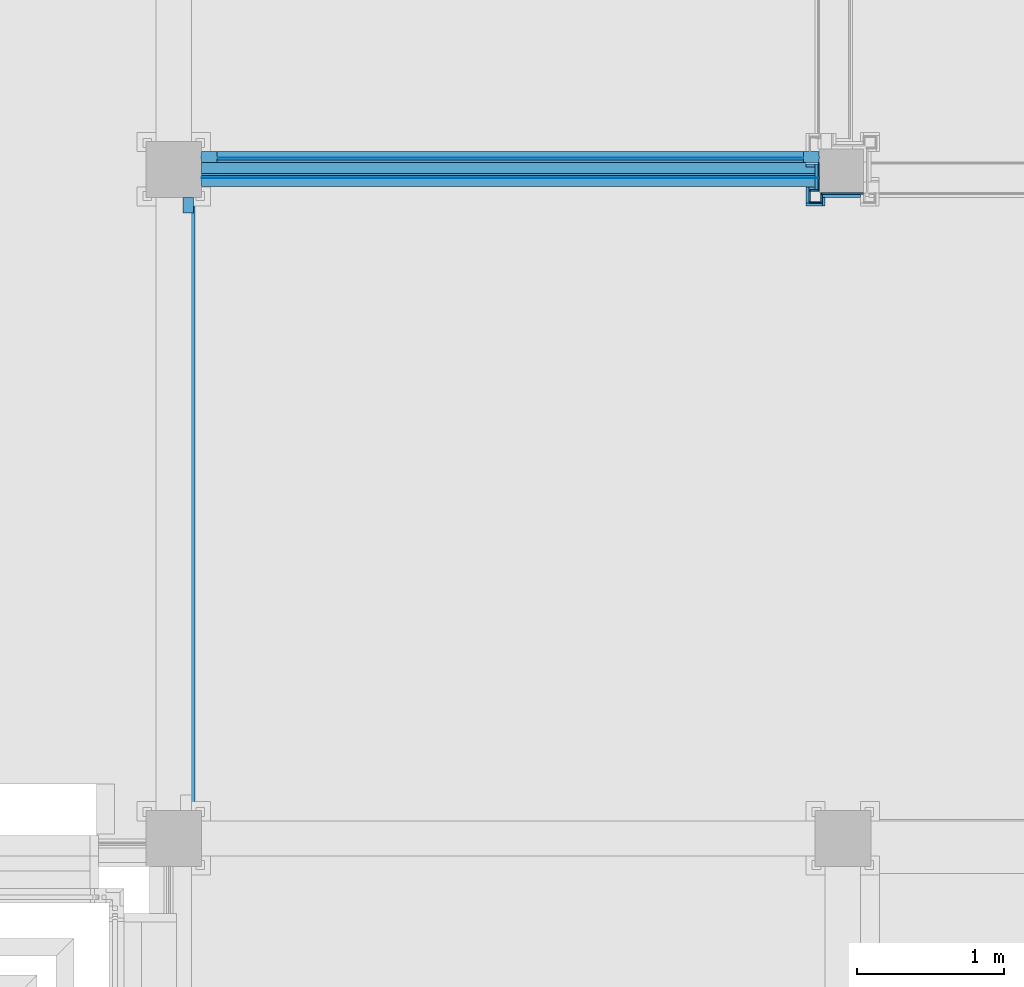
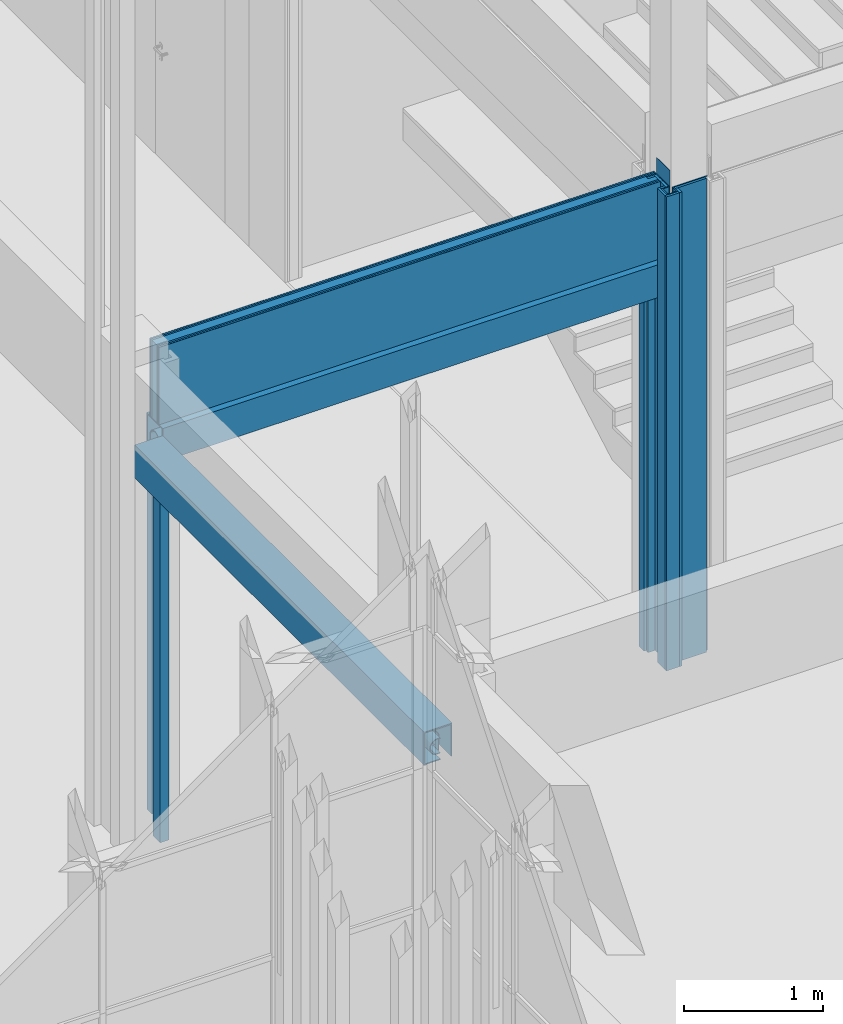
# One storey, part 143 of 260: 20 building element parts, 5 discrete accessories, 8 elements without a shape of their own.
"""IFC2X3 building model written with IfcOpenShell, lengths in millimetres."""

import ifcopenshell
import ifcopenshell.guid

model = None  # the IFC model being written
_history = None  # IfcOwnerHistory: only IFC2X3 demands one
_inside = {}  # id of a spatial element -> (the spatial element, [elements in it])
_under = {}  # id of a project, library or spatial element -> (it, [spatial elements below it])
_declared = {}  # id of a project -> (the project, [libraries it declares])
_typed = {}  # id of a type object -> (the type object, [elements of that type])
_made_of = {}  # id of a material, layer set ... -> (it, [elements and type objects made of it])


def new_model(schema):
    """Start an empty IFC model of exactly this schema.

    Asked for "IFC4X3", IfcOpenShell would pick the latest addendum, in which some entities
    have other attributes; the version numbers below select the first issue.
    IFC2X3 requires an IfcOwnerHistory on every rooted entity: one is made here for all.
    """
    global model, _history
    if schema == "IFC4X3":
        model = ifcopenshell.file(schema_version=(4, 3, 0, 0))
    else:
        model = ifcopenshell.file(schema=schema)
    _inside.clear()
    _under.clear()
    _declared.clear()
    _typed.clear()
    _made_of.clear()
    _history = None
    if model.schema == "IFC2X3":
        org = make("IfcOrganization", Name="unknown")
        user = make(
            "IfcPersonAndOrganization",
            ThePerson=make("IfcPerson", FamilyName="unknown"),
            TheOrganization=org,
        )
        app = make(
            "IfcApplication",
            ApplicationDeveloper=org,
            Version="unknown",
            ApplicationFullName="unknown",
            ApplicationIdentifier="unknown",
        )
        _history = make(
            "IfcOwnerHistory",
            OwningUser=user,
            OwningApplication=app,
            ChangeAction="ADDED",
            CreationDate=0,
        )
    return model


def make(cls, **values):
    """One entity of the class cls with the attributes given. An attribute that is None is left unset."""
    return model.create_entity(
        cls, **{name: value for name, value in values.items() if value is not None}
    )


def entity(cls, *values):
    """Any entity or typed value of the class cls, its attributes in the order of the schema. None: left unset."""
    e = model.create_entity(cls)
    for i, value in enumerate(values):
        if value is not None:
            e[i] = value
    return e


def rooted(cls, **values):
    """An entity with a GlobalId (a new one), such as an element, a storey or a relation."""
    return make(cls, GlobalId=ifcopenshell.guid.new(), OwnerHistory=_history, **values)


def si_unit(unit_type, name, prefix=None):
    """IfcSIUnit, for example si_unit("LENGTHUNIT", "METRE", prefix="MILLI")."""
    return make("IfcSIUnit", UnitType=unit_type, Prefix=prefix, Name=name)


def converted_unit(unit_type, name, factor, base, dimensions=None, offset=None):
    """IfcConversionBasedUnit, such as the inch: factor (a typed value) times the base unit."""
    return make(
        "IfcConversionBasedUnit"
        if offset is None
        else "IfcConversionBasedUnitWithOffset",
        ConversionOffset=offset,
        Dimensions=None
        if dimensions is None
        else entity("IfcDimensionalExponents", *dimensions),
        UnitType=unit_type,
        Name=name,
        ConversionFactor=make(
            "IfcMeasureWithUnit", ValueComponent=factor, UnitComponent=base
        ),
    )


def derived_unit(unit_type, elements):
    """IfcDerivedUnit: a product of units, each with its exponent."""
    return make(
        "IfcDerivedUnit",
        Elements=[
            make("IfcDerivedUnitElement", Unit=unit, Exponent=power)
            for unit, power in elements
        ],
        UnitType=unit_type,
    )


def money_unit(currency):
    """IfcMonetaryUnit."""
    return make("IfcMonetaryUnit", Currency=currency)


def assignment(units):
    """IfcUnitAssignment: the units of a project."""
    return None if units is None else make("IfcUnitAssignment", Units=units)


def point(xyz):
    """IfcCartesianPoint."""
    return None if xyz is None else make("IfcCartesianPoint", Coordinates=xyz)


def direction(xyz):
    """IfcDirection."""
    return None if xyz is None else make("IfcDirection", DirectionRatios=xyz)


def frame(location, z_axis=None, x_axis=None):
    """IfcAxis2Placement3D, a coordinate frame: its origin and axes. An axis left out is left unset."""
    return make(
        "IfcAxis2Placement3D",
        Location=point(location),
        Axis=direction(z_axis),
        RefDirection=direction(x_axis),
    )


def origin_with_axes():
    """The frame at (0, 0, 0) with the z axis (0, 0, 1) and the x axis (1, 0, 0) written out."""
    return frame((0.0, 0.0, 0.0), z_axis=(0.0, 0.0, 1.0), x_axis=(1.0, 0.0, 0.0))


def place(relative_to, where):
    """IfcLocalPlacement: puts the frame where relative to a parent placement (None: the world)."""
    return make(
        "IfcLocalPlacement", PlacementRelTo=relative_to, RelativePlacement=where
    )


def context(
    kind, dimensions, precision=None, world=None, true_north=None, identifier=None
):
    """IfcGeometricRepresentationContext, for example the 3D "Model" context."""
    return make(
        "IfcGeometricRepresentationContext",
        ContextIdentifier=identifier,
        ContextType=kind,
        CoordinateSpaceDimension=dimensions,
        Precision=precision,
        WorldCoordinateSystem=world,
        TrueNorth=true_north,
    )


def subcontext(parent, identifier, kind, view, scale=None):
    """IfcGeometricRepresentationSubContext, for example "Body" below "Model"."""
    return make(
        "IfcGeometricRepresentationSubContext",
        ContextIdentifier=identifier,
        ContextType=kind,
        ParentContext=parent,
        TargetScale=scale,
        TargetView=view,
    )


def project(units=None, contexts=None):
    """IfcProject with its units and contexts."""
    return rooted(
        "IfcProject",
        Name="project",
        RepresentationContexts=contexts,
        UnitsInContext=assignment(units),
    )


def spatial(cls, under=None, at=None, **own):
    """A site, building, storey or space (cls), placed at a placement, below another one or the project."""
    s = rooted(cls, ObjectPlacement=at, **own)
    if under is not None:
        _under.setdefault(under.id(), (under, []))[1].append(s)
    return s


def faces_of(points, faces, orient=None, outer=None):
    """IfcFace entities. A face is a list of loops; a loop is a list of indices into points, from 0.

    orient and outer hold one flag for each loop. By default every Orientation is true, the
    first loop of a face is its IfcFaceOuterBound and the others are IfcFaceBound.
    """
    made = []
    for i, loops in enumerate(faces):
        bounds = []
        for j, loop in enumerate(loops):
            is_outer = j == 0 if outer is None else outer[i][j]
            bounds.append(
                make(
                    "IfcFaceOuterBound" if is_outer else "IfcFaceBound",
                    Bound=make("IfcPolyLoop", Polygon=[points[k] for k in loop]),
                    Orientation=True if orient is None else orient[i][j],
                )
            )
        made.append(make("IfcFace", Bounds=bounds))
    return made


def faceted_brep(points, faces, orient=None, outer=None, voids=None):
    """IfcFacetedBrep: a solid bounded by flat faces; with voids (closed shells), ...WithVoids."""
    shared = [point(p) for p in points]
    hull = make("IfcClosedShell", CfsFaces=faces_of(shared, faces, orient, outer))
    if voids is None:
        return make("IfcFacetedBrep", Outer=hull)
    return make(
        "IfcFacetedBrepWithVoids",
        Outer=hull,
        Voids=[
            make(cls, CfsFaces=faces_of(shared, fs, o, b)) for cls, fs, o, b in voids
        ],
    )


def shape(context_of_items, identifier, shape_type, items):
    """IfcShapeRepresentation: the items that make up one representation, for example the "Body"."""
    return make(
        "IfcShapeRepresentation",
        ContextOfItems=context_of_items,
        RepresentationIdentifier=identifier,
        RepresentationType=shape_type,
        Items=items,
    )


def material(Name=None, Category=None):
    """IfcMaterial."""
    return make("IfcMaterial", Name=Name, Category=Category)


def material_list(materials):
    """IfcMaterialList."""
    return make("IfcMaterialList", Materials=materials)


def made_of(thing, what):
    """Note that an element or type object is made of a material, layer set ...; save() writes the relation."""
    if what is not None:
        _made_of.setdefault(what.id(), (what, []))[1].append(thing)
    return thing


def type_object(cls, material=None, **own):
    """A type object (cls), such as IfcWallType, which elements share."""
    return made_of(rooted(cls, **own), material)


def element(
    cls,
    number,
    at=None,
    inside=None,
    cuts=None,
    type_object=None,
    material=None,
    context=None,
    identifier="Body",
    shape_type=None,
    held_by="IfcProductDefinitionShape",
    body=None,
    shapes=None,
    **own,
):
    """One element of the class cls, such as IfcWall. Its Tag is "e" and its number.

    at: its placement. inside: the storey or other place that contains it. cuts: it is an
    opening in that element (IfcRelVoidsElement). A single representation is given by context,
    identifier, shape_type and body (its items); several are given by shapes. held_by: the class
    of the entity that holds the representations. save() writes the other relations.
    """
    e = rooted(cls, Tag="e%d" % number, ObjectPlacement=at, **own)
    if body is not None:
        shapes = [shape(context, identifier, shape_type, body)]
    if shapes is not None:
        e.Representation = make(held_by, Representations=shapes)
    if inside is not None:
        _inside.setdefault(inside.id(), (inside, []))[1].append(e)
    if cuts is not None:
        rooted(
            "IfcRelVoidsElement", RelatingBuildingElement=cuts, RelatedOpeningElement=e
        )
    if type_object is not None:
        _typed.setdefault(type_object.id(), (type_object, []))[1].append(e)
    return made_of(e, material)


def aggregate(whole, parts):
    """IfcRelAggregates: a whole, such as a stair, and the parts it consists of."""
    return rooted("IfcRelAggregates", RelatingObject=whole, RelatedObjects=parts)


def save(model, path):
    """Write the relations noted so far, then the file.

    IfcRelAggregates (storeys below a building ...), IfcRelContainedInSpatialStructure (elements
    in a storey), IfcRelDefinesByType, IfcRelAssociatesMaterial and IfcRelDeclares: one each for
    every whole, place, type object, material and project.
    """
    for whole, parts in _under.values():
        aggregate(whole, parts)
    for where, things in _inside.values():
        rooted(
            "IfcRelContainedInSpatialStructure",
            RelatedElements=things,
            RelatingStructure=where,
        )
    for kind, things in _typed.values():
        rooted("IfcRelDefinesByType", RelatedObjects=things, RelatingType=kind)
    for what, things in _made_of.values():
        rooted("IfcRelAssociatesMaterial", RelatedObjects=things, RelatingMaterial=what)
    for by, libraries in _declared.values():
        rooted("IfcRelDeclares", RelatingContext=by, RelatedDefinitions=libraries)
    model.write(path)


model = new_model("IFC2X3")

# Units and contexts
model_context = context("Model", 3, precision=0.01, world=origin_with_axes(), true_north=direction((0.0, 1.0)))
body_context = subcontext(model_context, "Body", "Model", "MODEL_VIEW")
ifc_project = project(units=[si_unit("LENGTHUNIT", "METRE", prefix="MILLI"), si_unit("AREAUNIT", "SQUARE_METRE"), si_unit("VOLUMEUNIT", "CUBIC_METRE"), converted_unit("PLANEANGLEUNIT", "DEGREE", entity("IfcPlaneAngleMeasure", 0.0174532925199), si_unit("PLANEANGLEUNIT", "RADIAN"), dimensions=[0, 0, 0, 0, 0, 0, 0]), money_unit("EUR"), converted_unit("TIMEUNIT", "Year", entity("IfcTimeMeasure", 31556926.0), si_unit("TIMEUNIT", "SECOND"), dimensions=[0, 0, 1, 0, 0, 0, 0]), si_unit("MASSUNIT", "GRAM", prefix="KILO"), si_unit("THERMODYNAMICTEMPERATUREUNIT", "DEGREE_CELSIUS"), si_unit("LUMINOUSINTENSITYUNIT", "LUMEN"), si_unit("ENERGYUNIT", "JOULE", prefix="MEGA"), derived_unit("THERMALCONDUCTANCEUNIT", [(si_unit("POWERUNIT", "WATT"), 1), (si_unit("LENGTHUNIT", "METRE"), -1), (si_unit("THERMODYNAMICTEMPERATUREUNIT", "KELVIN"), -1)]), derived_unit("SPECIFICHEATCAPACITYUNIT", [(si_unit("ENERGYUNIT", "JOULE"), 1), (si_unit("MASSUNIT", "GRAM", prefix="KILO"), -1), (si_unit("THERMODYNAMICTEMPERATUREUNIT", "KELVIN"), -1)]), derived_unit("MASSDENSITYUNIT", [(si_unit("MASSUNIT", "GRAM", prefix="KILO"), 1), (si_unit("VOLUMEUNIT", "CUBIC_METRE"), -1)])], contexts=[model_context])

# Site, building, storey
site_placement = place(None, origin_with_axes())
site = spatial("IfcSite", under=ifc_project, at=site_placement, Name="Kolde pst 67a", CompositionType="ELEMENT")
building_placement = place(site_placement, origin_with_axes())
building = spatial("IfcBuilding", under=site, at=building_placement, Name="Riigigümnaasium", CompositionType="ELEMENT")
storey_placement = place(building_placement, origin_with_axes())
storey = spatial("IfcBuildingStorey", under=building, at=storey_placement, Name="1. korrus", CompositionType="ELEMENT", Elevation=0.0)

# Discrete accessories
ifc_material_1 = material(Name="_ÕHK")
ifc_material_2 = material(Name="_METALL - teras")
ifc_material_list = material_list([ifc_material_1, ifc_material_2])
discrete_accessory_type_1 = type_object("IfcDiscreteAccessoryType", Name="Fibreshield-p H kuni 6 m  235 x 290")
discrete_accessory_1_placement = place(storey_placement, frame((52618.9990217, 28689.9997005, 3200.0), z_axis=(0.0, 0.0, 1.0), x_axis=(0.0, 1.0, 0.0)))
element("IfcDiscreteAccessory", 1, at=discrete_accessory_1_placement, inside=storey, type_object=discrete_accessory_type_1, material=ifc_material_list, Name="Tuletõkkekardin", context=body_context, shape_type="Brep", body=[
    faceted_brep([(136.000001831, 89.0049028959, 173.728673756), (136.000001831, 89.0049028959, 180.569471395), (130.610610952, 89.0049028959, 185.383225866), (111.10866745, 89.0049028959, 194.148356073), (105.999999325, 89.0049028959, 194.742343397), (105.999999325, 89.0049028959, 189.874203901), (124.999999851, 89.0049028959, 182.958769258), (136.000001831, 105.0, 180.569469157), (136.000001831, 105.0, 173.728671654), (146.556964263, 105.0, 171.140082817), (146.556964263, 4200.0, 171.140082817), (130.610610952, 4200.0, 185.383225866), (111.10866745, 4200.0, 194.148356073), (89.8705986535, 4200.0, 196.617716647), (89.8705986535, 29.0048994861, 196.617716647), (105.999999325, 29.0048994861, 194.742343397), (105.999999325, 29.0048994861, 189.874203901), (103.787131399, 29.0048994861, 190.679621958), (103.787131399, 4200.0, 190.679621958), (124.999999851, 4200.0, 182.958769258), (142.292888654, 4200.0, 168.448312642), (142.292888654, 105.0, 168.448312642), (162.499999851, 105.0, 0.555395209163), (162.499999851, 105.0, 126.667118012), (161.228447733, 105.0, 139.948701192), (157.459986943, 105.0, 152.747763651), (153.580020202, 105.0, 148.898427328), (157.499999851, 105.0, 126.667118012), (157.499999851, 105.0, 0.555395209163), (157.459986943, 4200.0, 152.747763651), (31.572193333, 4200.0, 92.2026088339), (24.8060324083, 4200.0, 108.84783711), (22.499999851, 4200.0, 126.667118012), (25.7653806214, 4200.0, 147.797442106), (35.2568740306, 4200.0, 166.956378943), (50.0889560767, 4200.0, 182.356464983), (68.8778440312, 4200.0, 192.560924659), (161.228447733, 4200.0, 139.948701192), (162.499999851, 4200.0, 126.667118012), (162.499999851, 4200.0, 0.555395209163), (157.499999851, 4200.0, 0.555395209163), (157.499999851, 4200.0, 126.667118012), (153.580020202, 4200.0, 148.898427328), (81.2128683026, 4200.0, 190.679621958), (59.999999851, 4200.0, 182.958769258), (42.7071110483, 4200.0, 168.448312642), (31.4199794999, 4200.0, 148.898427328), (27.499999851, 4200.0, 126.667118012), (30.6090574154, 4200.0, 106.804810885), (39.6388073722, 4200.0, 88.8425977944), (53.7254339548, 4200.0, 74.4988034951), (71.5213638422, 4200.0, 65.1456028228), (97.8520772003, 4200.0, 63.4245440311), (123.519091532, 4200.0, 69.546054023), (125.382804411, 4200.0, 64.871315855), (107.591032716, 4200.0, 59.5917922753), (89.1009241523, 4200.0, 57.9991860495), (70.6684146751, 4200.0, 60.1586081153), (56.4372110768, 4200.0, 66.6714909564), (42.3526829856, 4200.0, 77.8281314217), (68.8778440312, 29.0048994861, 192.560924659), (50.0889560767, 29.0048994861, 182.356464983), (35.2568740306, 29.0048994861, 166.956378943), (25.7653806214, 29.0048994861, 147.797442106), (22.499999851, 29.0048994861, 126.667118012), (24.8060324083, 29.0048994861, 108.84783711), (31.572193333, 29.0048994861, 92.2026088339), (42.3526829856, 29.0048994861, 77.8281314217), (56.4372110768, 29.0048994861, 66.6714909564), (70.6684146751, 29.0048994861, 60.1586081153), (89.1009241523, 29.0048994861, 57.9991860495), (105.999999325, 29.0048994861, 59.4547519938), (105.999999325, 29.0048994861, 65.3678003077), (97.8520772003, 29.0048994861, 63.4245440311), (71.5213638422, 29.0048994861, 65.1456028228), (53.7254339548, 29.0048994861, 74.4988034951), (39.6388073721, 29.0048994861, 88.8425977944), (30.6090574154, 29.0048994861, 106.804810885), (27.499999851, 29.0048994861, 126.667118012), (31.4199794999, 29.0048994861, 148.898427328), (42.7071110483, 29.0048994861, 168.448312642), (59.999999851, 29.0048994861, 182.958769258), (81.2128683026, 29.0048994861, 190.679621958), (105.999999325, 89.0049028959, 65.3678003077), (123.519091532, 89.0049028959, 69.546054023), (125.382804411, 89.0049028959, 64.871315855), (107.591032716, 89.0049028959, 59.5917922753), (105.999999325, 89.0049028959, 59.4547519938)], [[[0, 1, 2, 3, 4, 5, 6]], [[7, 1, 0, 8]], [[7, 9, 10, 11, 2, 1]], [[3, 2, 11, 12]], [[13, 14, 15, 4, 3, 12]], [[4, 15, 16, 5]], [[5, 16, 17, 18, 19, 6]], [[8, 0, 6, 19, 20, 21]], [[22, 23, 24, 25, 9, 7, 8, 21, 26, 27, 28]], [[9, 25, 29, 10]], [[30, 31, 32, 33, 34, 35, 36, 13, 12, 11, 10, 29, 37, 38, 39, 40, 41, 42, 20, 19, 18, 43, 44, 45, 46, 47, 48, 49, 50, 51, 52, 53, 54, 55, 56, 57, 58, 59]], [[36, 60, 14, 13]], [[17, 16, 15, 14, 60, 61, 62, 63, 64, 65, 66, 67, 68, 69, 70, 71, 72, 73, 74, 75, 76, 77, 78, 79, 80, 81, 82]], [[18, 17, 82, 43]], [[26, 21, 20, 42]], [[23, 22, 39, 38]], [[24, 23, 38, 37]], [[25, 24, 37, 29]], [[27, 26, 42, 41]], [[28, 27, 41, 40]], [[22, 28, 40, 39]], [[30, 66, 65, 31]], [[31, 65, 64, 32]], [[32, 64, 63, 33]], [[33, 63, 62, 34]], [[34, 62, 61, 35]], [[35, 61, 60, 36]], [[43, 82, 81, 44]], [[44, 81, 80, 45]], [[45, 80, 79, 46]], [[46, 79, 78, 47]], [[47, 78, 77, 48]], [[48, 77, 76, 49]], [[49, 76, 75, 50]], [[50, 75, 74, 51]], [[51, 74, 73, 52]], [[52, 73, 72, 83, 84, 53]], [[53, 84, 85, 54]], [[54, 85, 86, 55]], [[87, 71, 70, 56, 55, 86]], [[56, 70, 69, 57]], [[57, 69, 68, 58]], [[58, 68, 67, 59]], [[59, 67, 66, 30]], [[83, 72, 71, 87]], [[87, 86, 85, 84, 83]]]),
    faceted_brep([(199.999998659, 0.0, 270.0), (210.000001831, 0.0, 270.0), (210.000000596, 0.0, 290.0), (-25.0, 0.0, 290.0), (-25.0, 0.0, 0.0), (122.368444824, 0.0, 0.0), (122.368444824, 0.0, 10.0000019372), (-14.9999980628, 0.0, 10.0000019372), (-14.9999980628, 0.0, 279.999998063), (199.999998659, 0.0, 279.999998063), (210.000001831, 105.0, 270.0), (199.999998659, 105.0, 270.0), (210.000001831, 105.0, 0.0), (210.000000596, 4200.0, 0.0), (210.000000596, 4200.0, 290.0), (-25.0, 4200.0, 290.0), (-25.0, 4200.0, 0.0), (122.368444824, 4200.0, 0.0), (122.368444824, 4200.0, 10.0000019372), (-14.9999980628, 4200.0, 10.0000019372), (-14.9999980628, 4200.0, 279.999998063), (199.999998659, 4200.0, 279.999998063), (199.999998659, 4200.0, 0.0), (199.999998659, 105.0, 0.0)], [[[0, 1, 2, 3, 4, 5, 6, 7, 8, 9]], [[10, 1, 0, 11]], [[10, 12, 13, 14, 2, 1]], [[2, 14, 15, 3]], [[3, 15, 16, 4]], [[4, 16, 17, 5]], [[5, 17, 18, 6]], [[6, 18, 19, 7]], [[7, 19, 20, 8]], [[8, 20, 21, 9]], [[11, 0, 9, 21, 22, 23]], [[12, 10, 11, 23]], [[12, 23, 22, 13]], [[17, 16, 15, 14, 13, 22, 21, 20, 19, 18]]]),
])
discrete_accessory_2_placement = place(storey_placement, frame((48164.9854616, 24419.9999736, 3200.0), z_axis=(0.0, 0.0, 1.0), x_axis=(1.0, 0.0, 0.0)))
element("IfcDiscreteAccessory", 2, at=discrete_accessory_2_placement, inside=storey, type_object=discrete_accessory_type_1, material=ifc_material_list, Name="Tuletõkkekardin", context=body_context, shape_type="Brep", body=[
    faceted_brep([(123.519091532, 104.996560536, 69.546054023), (125.382804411, 104.996560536, 64.871315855), (125.382804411, 4170.00462566, 64.871315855), (123.519091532, 4170.00462566, 69.546054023), (110.999999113, 104.996560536, 60.6033676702), (110.999999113, 104.996560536, 66.5602860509), (110.999999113, -0.00343946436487, 60.6033676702), (107.591032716, 0.0, 59.5917922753), (107.591032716, 4170.00462566, 59.5917922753), (24.8060324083, 4170.00462566, 108.84783711), (22.499999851, 4170.00462566, 126.667118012), (25.7653806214, 4170.00462566, 147.797442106), (35.2568740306, 4170.00462566, 166.956378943), (50.0889560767, 4170.00462566, 182.356464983), (68.8778440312, 4170.00462566, 192.560924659), (89.8705986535, 4170.00462566, 196.617716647), (111.10866745, 4170.00462566, 194.148356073), (130.610610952, 4170.00462566, 185.383225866), (146.556964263, 4170.00462566, 171.140082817), (157.459986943, 4170.00462566, 152.747763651), (161.228447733, 4170.00462566, 139.948701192), (162.499999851, 4170.00462566, 126.667118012), (162.499999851, 4170.00462566, 0.555395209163), (157.499999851, 4170.00462566, 0.555395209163), (157.499999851, 4170.00462566, 126.667118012), (153.580020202, 4170.00462566, 148.898427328), (142.292888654, 4170.00462566, 168.448312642), (124.999999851, 4170.00462566, 182.958769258), (103.787131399, 4170.00462566, 190.679621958), (81.2128683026, 4170.00462566, 190.679621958), (59.999999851, 4170.00462566, 182.958769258), (42.7071110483, 4170.00462566, 168.448312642), (31.4199794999, 4170.00462566, 148.898427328), (27.499999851, 4170.00462566, 126.667118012), (30.6090574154, 4170.00462566, 106.804810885), (39.6388073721, 4170.00462566, 88.8425977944), (53.7254339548, 4170.00462566, 74.4988034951), (71.5213638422, 4170.00462566, 65.1456028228), (97.8520772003, 4170.00462566, 63.4245440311), (89.1009241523, 4170.00462566, 57.9991860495), (70.6684146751, 4170.00462566, 60.1586081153), (56.4372110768, 4170.00462566, 66.6714909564), (42.3526829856, 4170.00462566, 77.8281314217), (31.572193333, 4170.00462566, 92.2026088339), (97.8520772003, 0.0, 63.4245440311), (110.999999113, -0.00343946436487, 66.5602860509), (110.999999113, -0.00343946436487, 188.054352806), (110.999999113, -0.00343946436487, 194.160990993), (89.8705986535, 0.0, 196.617716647), (68.8778440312, 0.0, 192.560924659), (50.0889560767, 0.0, 182.356464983), (35.2568740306, 0.0, 166.956378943), (25.7653806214, 0.0, 147.797442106), (22.499999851, 0.0, 126.667118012), (24.8060324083, 0.0, 108.84783711), (31.572193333, 0.0, 92.2026088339), (42.3526829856, 0.0, 77.8281314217), (56.4372110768, 0.0, 66.6714909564), (70.6684146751, 0.0, 60.1586081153), (89.1009241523, 0.0, 57.9991860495), (71.5213638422, 0.0, 65.1456028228), (53.7254339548, 0.0, 74.4988034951), (39.6388073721, 0.0, 88.8425977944), (30.6090574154, 0.0, 106.804810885), (27.499999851, 0.0, 126.667118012), (31.4199794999, 0.0, 148.898427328), (42.7071110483, 0.0, 168.448312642), (59.999999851, 0.0, 182.958769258), (81.2128683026, 0.0, 190.679621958), (103.787131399, 0.0, 190.679621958), (110.999999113, 104.996560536, 194.160990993), (111.10866745, 104.996560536, 194.148356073), (130.610610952, 104.996560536, 185.383225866), (146.556964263, 104.996560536, 171.140082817), (157.459986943, 104.996560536, 152.747763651), (161.228447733, 104.996560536, 139.948701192), (162.499999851, 104.996560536, 126.667118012), (162.499999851, 104.996560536, 0.555395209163), (157.499999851, 104.996560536, 0.555395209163), (157.499999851, 104.996560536, 126.667118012), (153.580020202, 104.996560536, 148.898427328), (142.292888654, 104.996560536, 168.448312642), (124.999999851, 104.996560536, 182.958769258), (110.999999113, 104.996560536, 188.054352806)], [[[0, 1, 2, 3]], [[4, 1, 0, 5]], [[4, 6, 7, 8, 2, 1]], [[9, 10, 11, 12, 13, 14, 15, 16, 17, 18, 19, 20, 21, 22, 23, 24, 25, 26, 27, 28, 29, 30, 31, 32, 33, 34, 35, 36, 37, 38, 3, 2, 8, 39, 40, 41, 42, 43]], [[5, 0, 3, 38, 44, 45]], [[5, 45, 6, 4]], [[46, 47, 48, 49, 50, 51, 52, 53, 54, 55, 56, 57, 58, 59, 7, 6, 45, 44, 60, 61, 62, 63, 64, 65, 66, 67, 68, 69]], [[59, 39, 8, 7]], [[53, 10, 9, 54]], [[52, 11, 10, 53]], [[51, 12, 11, 52]], [[50, 13, 12, 51]], [[49, 14, 13, 50]], [[48, 15, 14, 49]], [[70, 71, 16, 15, 48, 47]], [[71, 72, 17, 16]], [[72, 73, 18, 17]], [[73, 74, 19, 18]], [[74, 75, 20, 19]], [[75, 76, 21, 20]], [[76, 77, 22, 21]], [[77, 78, 23, 22]], [[78, 79, 24, 23]], [[79, 80, 25, 24]], [[80, 81, 26, 25]], [[81, 82, 27, 26]], [[83, 46, 69, 28, 27, 82]], [[68, 29, 28, 69]], [[67, 30, 29, 68]], [[66, 31, 30, 67]], [[65, 32, 31, 66]], [[64, 33, 32, 65]], [[63, 34, 33, 64]], [[62, 35, 34, 63]], [[61, 36, 35, 62]], [[60, 37, 36, 61]], [[44, 38, 37, 60]], [[58, 40, 39, 59]], [[57, 41, 40, 58]], [[56, 42, 41, 57]], [[55, 43, 42, 56]], [[54, 9, 43, 55]], [[70, 47, 46, 83]], [[77, 76, 75, 74, 73, 72, 71, 70, 83, 82, 81, 80, 79, 78]]]),
    faceted_brep([(110.999999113, -0.00343946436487, 10.0000019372), (110.999999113, 104.996560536, 10.0000019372), (122.368444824, 104.996560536, 10.0000019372), (122.368444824, 4170.00462566, 10.0000019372), (-14.9999980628, 4170.00462566, 10.0000019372), (-14.9999980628, 0.0, 10.0000019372), (110.999999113, -0.00343946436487, 0.0), (110.999999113, 104.996560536, 0.0), (122.368444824, 104.996560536, 0.0), (122.368444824, 4170.00462566, 0.0), (-25.0, 4170.00462566, 0.0), (-25.0, 4170.00462566, 290.0), (210.000000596, 4170.00462566, 290.0), (210.000000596, 4170.00462566, 0.0), (199.999998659, 4170.00462566, 0.0), (199.999998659, 4170.00462566, 279.999998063), (-14.9999980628, 4170.00462566, 279.999998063), (-14.9999980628, 0.0, 279.999998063), (199.999998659, 0.0, 279.999998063), (199.999998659, 0.0, 0.0), (210.000000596, 0.0, 0.0), (210.000000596, 0.0, 290.0), (-25.0, 0.0, 290.0), (-25.0, 0.0, 0.0)], [[[0, 1, 2, 3, 4, 5]], [[1, 0, 6, 7]], [[8, 2, 1, 7]], [[2, 8, 9, 3]], [[9, 10, 11, 12, 13, 14, 15, 16, 4, 3]], [[5, 4, 16, 17]], [[6, 0, 5, 17, 18, 19, 20, 21, 22, 23]], [[7, 6, 23, 10, 9, 8]], [[22, 11, 10, 23]], [[21, 12, 11, 22]], [[20, 13, 12, 21]], [[19, 14, 13, 20]], [[18, 15, 14, 19]], [[17, 16, 15, 18]]]),
])
discrete_accessory_type_2 = type_object("IfcDiscreteAccessoryType", Name="_METALL - teras 74 x 105")
discrete_accessory_3_placement = place(storey_placement, frame((52566.4990217, 28862.9997023, 0.0), z_axis=(0.0, 0.0, 1.0), x_axis=(0.0, -1.0, 0.0)))
element("IfcDiscreteAccessory", 3, at=discrete_accessory_3_placement, inside=storey, type_object=discrete_accessory_type_2, material=ifc_material_2, Name="Tuletõkke kardin", context=body_context, shape_type="Brep", body=[
    faceted_brep([(37.0, 52.5, 3470.0), (37.0, 52.5, 0.0), (-37.0, 52.5, 0.0), (-37.0, 52.5, 3470.0), (37.0, -52.5, 3470.0), (37.0, -52.5, 0.0), (-37.0, -52.5, 0.0), (-37.0, -52.5, 3470.0)], [[[0, 1, 2, 3]], [[4, 5, 1, 0]], [[2, 1, 5, 6]], [[3, 2, 6, 7]], [[4, 0, 3, 7]], [[7, 6, 5, 4]]]),
])
discrete_accessory_4_placement = place(storey_placement, frame((48472.4854607, 28862.9997023, 0.0), z_axis=(0.0, 0.0, 1.0), x_axis=(0.0, -1.0, 0.0)))
element("IfcDiscreteAccessory", 4, at=discrete_accessory_4_placement, inside=storey, type_object=discrete_accessory_type_2, material=ifc_material_2, Name="Tuletõkke kardin", context=body_context, shape_type="Brep", body=[
    faceted_brep([(37.0, 52.5, 3200.00001073), (37.0, 52.5, 0.0), (-37.0, 52.5, 0.0), (-37.0, 52.5, 3200.00001073), (37.0, -52.5, 3200.00001073), (37.0, -52.5, 0.0), (-37.0, -52.5, 0.0), (-37.0, -52.5, 3200.00001073)], [[[0, 1, 2, 3]], [[4, 5, 1, 0]], [[2, 1, 5, 6]], [[3, 2, 6, 7]], [[4, 0, 3, 7]], [[7, 6, 5, 4]]]),
])
discrete_accessory_5_placement = place(storey_placement, frame((48327.9854602, 28537.4996998, 0.0), z_axis=(0.0, 0.0, 1.0), x_axis=(-1.0, 0.0, 0.0)))
element("IfcDiscreteAccessory", 5, at=discrete_accessory_5_placement, inside=storey, type_object=discrete_accessory_type_2, material=ifc_material_2, Name="Tuletõkke kardin", context=body_context, shape_type="Brep", body=[
    faceted_brep([(37.0, 52.5, 3200.0), (37.0, 52.5, 0.0), (-37.0, 52.5, 0.0), (-37.0, 52.5, 3200.0), (37.0, -52.5, 3200.0), (37.0, -52.5, 0.0), (-37.0, -52.5, 0.0), (-37.0, -52.5, 3200.0)], [[[0, 1, 2, 3]], [[4, 5, 1, 0]], [[2, 1, 5, 6]], [[3, 2, 6, 7]], [[4, 0, 3, 7]], [[7, 6, 5, 4]]]),
])

# Wall, building element parts
wall_type_1 = type_object("IfcWallType", Name="SS-MK-1/1_1x dold pinnakiht 30", PredefinedType="NOTDEFINED")
wall_1_placement = place(storey_placement, frame((52619.9941222, 28629.9996569, 0.0), z_axis=(0.0, 0.0, 1.0), x_axis=(0.0, 1.0, 0.0)))
wall_1 = element("IfcWall", 6, at=wall_1_placement, inside=storey, type_object=wall_type_1, Name="Sisesein")
ifc_material_3 = material(Name="_VIIMISTLUSKIHT - Dold plaat vastavalt SA osale")
building_element_part_1_placement = place(wall_1_placement, origin_with_axes())
building_element_part_1 = element("IfcBuildingElementPart", 7, at=building_element_part_1_placement, material=ifc_material_3, Name="_VIIMISTLUSKIHT - Dold plaat vastavalt SA osale", context=body_context, shape_type="Brep", body=[
    faceted_brep([(35.0000435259, 10.0, 3200.0), (35.0000435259, 10.0, 3490.0), (186.000042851, 10.0, 3490.0), (186.000042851, 10.0, 4170.0), (10.0, 10.0, 4170.0), (10.0, 10.0, 0.0), (186.000042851, 10.0, 0.0), (186.000042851, 10.0, 3479.99999806), (45.0000454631, 10.0, 3479.99999806), (45.0000454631, 10.0, 3210.00000194), (182.36848835, 10.0, 3210.00000194), (182.36848835, 10.0, 3200.0), (35.0000435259, 30.0, 3200.0), (35.0000435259, 30.0, 3490.0), (186.000042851, 30.0, 3490.0), (186.000042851, 30.0, 4170.0), (10.0, 30.0, 4170.0), (10.0, 30.0, 0.0), (186.000042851, 30.0, 0.0), (186.000042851, 30.0, 3479.99999806), (45.0000454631, 30.0, 3479.99999806), (45.0000454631, 30.0, 3210.00000194), (182.36848835, 30.0, 3210.00000194), (182.36848835, 30.0, 3200.0)], [[[0, 1, 2, 3, 4, 5, 6, 7, 8, 9, 10, 11]], [[1, 0, 12, 13]], [[14, 2, 1, 13]], [[2, 14, 15, 3]], [[16, 4, 3, 15]], [[5, 4, 16, 17]], [[17, 18, 6, 5]], [[19, 7, 6, 18]], [[8, 7, 19, 20]], [[9, 8, 20, 21]], [[10, 9, 21, 22]], [[11, 10, 22, 23]], [[0, 11, 23, 12]], [[20, 19, 18, 17, 16, 15, 14, 13, 12, 23, 22, 21]]]),
])
ifc_material_4 = material(Name="_KARKASS - eriprofiilkinnitus vastavalt sisemisele plaatviimistlusele")
building_element_part_2_placement = place(wall_1_placement, origin_with_axes())
building_element_part_2 = element("IfcBuildingElementPart", 8, at=building_element_part_2_placement, material=ifc_material_4, Name="_KARKASS - eriprofiilkinnitus vastavalt sisemisele plaatviimistlusele", context=body_context, shape_type="Brep", body=[
    faceted_brep([(196.000042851, 10.0, 0.0), (196.000042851, 10.0, 3479.99999806), (196.000042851, 0.995100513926, 3479.99999806), (196.000042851, 0.995100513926, 3490.0), (196.000042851, 10.0, 3490.0), (196.000042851, 10.0, 4170.0), (196.000042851, 0.999999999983, 4170.0), (196.000042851, 0.999999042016, 4310.0), (196.000042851, 0.0, 4310.0), (196.000042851, 0.0, 0.0), (45.0000454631, 10.0, 3210.00000194), (45.0000454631, 10.0, 3479.99999806), (0.0, 10.0, 0.0), (0.0, 10.0, 4170.0), (35.0000435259, 10.0, 3490.0), (35.0000435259, 10.0, 3200.0), (182.36848835, 10.0, 3200.0), (182.36848835, 10.0, 3210.00000194), (45.0000454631, 0.995100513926, 3479.99999806), (35.0000435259, 0.995100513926, 3490.0), (45.0000454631, 0.995100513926, 3210.00000194), (182.36848835, 0.995100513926, 3210.00000194), (182.36848835, 0.995100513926, 3200.0), (35.0000435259, 0.995100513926, 3200.0), (0.0, 0.999999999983, 4170.0), (0.0, 0.999999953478, 4310.0), (0.0, 0.0, 4310.0), (0.0, 0.0, 0.0)], [[[0, 1, 2, 3, 4, 5, 6, 7, 8, 9]], [[10, 11, 1, 0, 12, 13, 5, 4, 14, 15, 16, 17]], [[18, 2, 1, 11]], [[19, 3, 2, 18, 20, 21, 22, 23]], [[14, 4, 3, 19]], [[13, 24, 6, 5]], [[6, 24, 25, 7]], [[26, 8, 7, 25]], [[26, 27, 9, 8]], [[27, 12, 0, 9]], [[18, 11, 10, 20]], [[26, 25, 24, 13, 12, 27]], [[23, 15, 14, 19]], [[22, 16, 15, 23]], [[21, 17, 16, 22]], [[20, 10, 17, 21]]]),
])
aggregate(wall_1, [building_element_part_1, building_element_part_2])

wall_2_placement = place(storey_placement, frame((52559.9941188, 28629.9996569, 0.0), z_axis=(0.0, 0.0, 1.0), x_axis=(1.0, 0.0, 0.0)))
wall_2 = element("IfcWall", 9, at=wall_2_placement, inside=storey, type_object=wall_type_1, Name="Sisesein")
building_element_part_3_placement = place(wall_2_placement, origin_with_axes())
building_element_part_3 = element("IfcBuildingElementPart", 10, at=building_element_part_3_placement, material=ifc_material_3, Name="_VIIMISTLUSKIHT - Dold plaat vastavalt SA osale", context=body_context, shape_type="Brep", body=[
    faceted_brep([(-10.0, 30.0, 4170.0), (30.0000034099, 30.0, 4170.0), (30.0000034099, 30.0, 0.0), (-10.0, 30.0, 0.0), (30.0000034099, 10.0, 4170.0), (-10.0, 10.0, 4170.0), (30.0000034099, 10.0, 0.0), (-10.0, 10.0, 0.0)], [[[0, 1, 2, 3]], [[4, 1, 0, 5]], [[1, 4, 6, 2]], [[2, 6, 7, 3]], [[5, 0, 3, 7]], [[4, 5, 7, 6]]]),
])
building_element_part_4_placement = place(wall_2_placement, origin_with_axes())
building_element_part_4 = element("IfcBuildingElementPart", 11, at=building_element_part_4_placement, material=ifc_material_4, Name="_KARKASS - eriprofiilkinnitus vastavalt sisemisele plaatviimistlusele", context=body_context, shape_type="Brep", body=[
    faceted_brep([(0.0, 10.0, 4170.0), (50.0000034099, 10.0, 4170.0), (50.0000034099, 10.0, 0.0), (0.0, 10.0, 0.0), (50.0000034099, 0.0, 4170.0), (0.0, 0.0, 4170.0), (50.0000034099, 0.0, 0.0), (0.0, 0.0, 0.0)], [[[0, 1, 2, 3]], [[4, 1, 0, 5]], [[1, 4, 6, 2]], [[2, 6, 7, 3]], [[5, 0, 3, 7]], [[4, 5, 7, 6]]]),
])
aggregate(wall_2, [building_element_part_3, building_element_part_4])

wall_3_placement = place(storey_placement, frame((52559.9941188, 28559.999656, 0.0), z_axis=(0.0, 0.0, 1.0), x_axis=(0.0, 1.0, 0.0)))
wall_3 = element("IfcWall", 12, at=wall_3_placement, inside=storey, type_object=wall_type_1, Name="Sisesein")
building_element_part_5_placement = place(wall_3_placement, origin_with_axes())
building_element_part_5 = element("IfcBuildingElementPart", 13, at=building_element_part_5_placement, material=ifc_material_3, Name="_VIIMISTLUSKIHT - Dold plaat vastavalt SA osale", context=body_context, shape_type="Brep", body=[
    faceted_brep([(100.000000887, 30.0, 4170.0), (100.000000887, 10.0, 4170.0), (100.000000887, 10.0, 0.0), (100.000000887, 30.0, 0.0), (-10.0, 10.0, 4170.0), (-10.0, 30.0, 4170.0), (-10.0, 10.0, 0.0), (-10.0, 30.0, 0.0)], [[[0, 1, 2, 3]], [[4, 1, 0, 5]], [[1, 4, 6, 2]], [[3, 2, 6, 7]], [[5, 0, 3, 7]], [[4, 5, 7, 6]]]),
])
building_element_part_6_placement = place(wall_3_placement, origin_with_axes())
building_element_part_6 = element("IfcBuildingElementPart", 14, at=building_element_part_6_placement, material=ifc_material_4, Name="_KARKASS - eriprofiilkinnitus vastavalt sisemisele plaatviimistlusele", context=body_context, shape_type="Brep", body=[
    faceted_brep([(80.0000008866, 10.0, 4170.0), (80.0000008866, 0.0, 4170.0), (80.0000008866, 0.0, 0.0), (80.0000008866, 10.0, 0.0), (0.0, 0.0, 4170.0), (0.0, 10.0, 4170.0), (0.0, 0.0, 0.0), (0.0, 10.0, 0.0)], [[[0, 1, 2, 3]], [[4, 1, 0, 5]], [[1, 4, 6, 2]], [[3, 2, 6, 7]], [[5, 0, 3, 7]], [[4, 5, 7, 6]]]),
])
aggregate(wall_3, [building_element_part_5, building_element_part_6])

wall_4_placement = place(storey_placement, frame((52629.9941222, 28559.999656, 0.0), z_axis=(0.0, 0.0, 1.0), x_axis=(-1.0, 0.0, 0.0)))
wall_4 = element("IfcWall", 15, at=wall_4_placement, inside=storey, type_object=wall_type_1, Name="Sisesein")
building_element_part_7_placement = place(wall_4_placement, origin_with_axes())
building_element_part_7 = element("IfcBuildingElementPart", 16, at=building_element_part_7_placement, material=ifc_material_3, Name="_VIIMISTLUSKIHT - Dold plaat vastavalt SA osale", context=body_context, shape_type="Brep", body=[
    faceted_brep([(100.00000341, 10.0, 4170.0), (-10.0, 10.0, 4170.0), (-10.0, 10.0, 0.0), (100.00000341, 10.0, 0.0), (-10.0, 30.0, 4170.0), (100.00000341, 30.0, 4170.0), (-10.0, 30.0, 0.0), (100.00000341, 30.0, 0.0)], [[[0, 1, 2, 3]], [[4, 1, 0, 5]], [[1, 4, 6, 2]], [[7, 3, 2, 6]], [[5, 0, 3, 7]], [[4, 5, 7, 6]]]),
])
building_element_part_8_placement = place(wall_4_placement, origin_with_axes())
building_element_part_8 = element("IfcBuildingElementPart", 17, at=building_element_part_8_placement, material=ifc_material_4, Name="_KARKASS - eriprofiilkinnitus vastavalt sisemisele plaatviimistlusele", context=body_context, shape_type="Brep", body=[
    faceted_brep([(80.0000034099, 0.0, 4170.0), (0.0, 0.0, 4170.0), (0.0, 0.0, 0.0), (80.0000034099, 0.0, 0.0), (0.0, 10.0, 4170.0), (80.0000034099, 10.0, 4170.0), (0.0, 10.0, 0.0), (80.0000034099, 10.0, 0.0)], [[[0, 1, 2, 3]], [[4, 1, 0, 5]], [[1, 4, 6, 2]], [[7, 3, 2, 6]], [[5, 0, 3, 7]], [[4, 5, 7, 6]]]),
])
aggregate(wall_4, [building_element_part_7, building_element_part_8])

wall_5_placement = place(storey_placement, frame((52629.9941222, 28619.999656, 0.0), z_axis=(0.0, 0.0, 1.0), x_axis=(0.0, -1.0, 0.0)))
wall_5 = element("IfcWall", 18, at=wall_5_placement, inside=storey, type_object=wall_type_1, Name="Sisesein")
building_element_part_9_placement = place(wall_5_placement, origin_with_axes())
building_element_part_9 = element("IfcBuildingElementPart", 19, at=building_element_part_9_placement, material=ifc_material_3, Name="_VIIMISTLUSKIHT - Dold plaat vastavalt SA osale", context=body_context, shape_type="Brep", body=[
    faceted_brep([(30.0, 10.0, 4170.0), (30.0, 30.0, 4170.0), (30.0, 30.0, 0.0), (30.0, 10.0, 0.0), (90.0, 30.0, 4170.0), (90.0, 10.0, 4170.0), (90.0, 30.0, 0.0), (90.0, 10.0, 0.0)], [[[0, 1, 2, 3]], [[4, 1, 0, 5]], [[1, 4, 6, 2]], [[6, 7, 3, 2]], [[5, 0, 3, 7]], [[4, 5, 7, 6]]]),
])
building_element_part_10_placement = place(wall_5_placement, origin_with_axes())
building_element_part_10 = element("IfcBuildingElementPart", 20, at=building_element_part_10_placement, material=ifc_material_4, Name="_KARKASS - eriprofiilkinnitus vastavalt sisemisele plaatviimistlusele", context=body_context, shape_type="Brep", body=[
    faceted_brep([(10.0, 0.0, 4170.0), (10.0, 10.0, 4170.0), (10.0, 10.0, 0.0), (10.0, 0.0, 0.0), (70.0, 10.0, 4170.0), (70.0, 0.0, 4170.0), (70.0, 10.0, 0.0), (70.0, 0.0, 0.0)], [[[0, 1, 2, 3]], [[4, 1, 0, 5]], [[1, 4, 6, 2]], [[6, 7, 3, 2]], [[5, 0, 3, 7]], [[4, 5, 7, 6]]]),
])
aggregate(wall_5, [building_element_part_9, building_element_part_10])

wall_6_placement = place(storey_placement, frame((52929.9941247, 28619.999656, 0.0), z_axis=(0.0, 0.0, 1.0), x_axis=(-1.0, 0.0, 0.0)))
wall_6 = element("IfcWall", 21, at=wall_6_placement, inside=storey, type_object=wall_type_1, Name="Sisesein")
building_element_part_11_placement = place(wall_6_placement, origin_with_axes())
building_element_part_11 = element("IfcBuildingElementPart", 22, at=building_element_part_11_placement, material=ifc_material_3, Name="_VIIMISTLUSKIHT - Dold plaat vastavalt SA osale", context=body_context, shape_type="Brep", body=[
    faceted_brep([(290.000002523, 10.0, 4170.0), (30.0, 10.0, 4170.0), (30.0, 10.0, 0.0), (290.000002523, 10.0, 0.0), (30.0, 30.0, 4170.0), (290.000002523, 30.0, 4170.0), (30.0, 30.0, 0.0), (290.000002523, 30.0, 0.0)], [[[0, 1, 2, 3]], [[4, 1, 0, 5]], [[1, 4, 6, 2]], [[7, 3, 2, 6]], [[5, 0, 3, 7]], [[4, 5, 7, 6]]]),
])
building_element_part_12_placement = place(wall_6_placement, origin_with_axes())
building_element_part_12 = element("IfcBuildingElementPart", 23, at=building_element_part_12_placement, material=ifc_material_4, Name="_KARKASS - eriprofiilkinnitus vastavalt sisemisele plaatviimistlusele", context=body_context, shape_type="Brep", body=[
    faceted_brep([(300.000002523, 0.0, 0.0), (300.000002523, 0.0, 4170.0), (10.0, 0.0, 4170.0), (10.0, 0.0, 0.0), (300.000002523, 10.0, 0.0), (300.000002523, 10.0, 4170.0), (10.0, 10.0, 4170.0), (10.0, 10.0, 0.0)], [[[0, 1, 2, 3]], [[4, 5, 1, 0]], [[5, 6, 2, 1]], [[3, 2, 6, 7]], [[7, 4, 0, 3]], [[7, 6, 5, 4]]]),
])
aggregate(wall_6, [building_element_part_11, building_element_part_12])

# Wall, building element part
wall_7_placement = place(storey_placement, frame((52619.9941222, 28825.9996998, 0.0), z_axis=(0.0, 0.0, 1.0), x_axis=(-1.0, 0.0, 0.0)))
wall_7 = element("IfcWall", 24, at=wall_7_placement, inside=storey, type_object=wall_type_1, Name="Sisesein")
building_element_part_13_placement = place(wall_7_placement, origin_with_axes())
building_element_part_13 = element("IfcBuildingElementPart", 25, at=building_element_part_13_placement, material=ifc_material_3, Name="_VIIMISTLUSKIHT - Dold plaat vastavalt SA osale", context=body_context, shape_type="Brep", body=[
    faceted_brep([(30.0, 10.0, 3479.99999806), (30.0, 30.0, 3479.99999806), (30.0, 30.0, 3210.00000194), (30.0, 13.6315545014, 3210.00000194), (30.0, 13.6315545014, 3200.0), (30.0, 30.0, 3200.0), (30.0, 30.0, 0.0), (30.0, 10.0, 0.0), (90.0000034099, 10.0, 3479.99999806), (90.0000034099, 30.0, 3479.99999806), (90.0000034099, 30.0, 3210.00000194), (90.0000034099, 13.6315545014, 3210.00000194), (90.0000034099, 13.6315545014, 3200.0), (90.0000034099, 30.0, 3200.0), (90.0000034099, 30.0, 0.0), (90.0000034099, 10.0, 0.0)], [[[0, 1, 2, 3, 4, 5, 6, 7]], [[1, 0, 8, 9]], [[1, 9, 10, 2]], [[3, 2, 10, 11]], [[4, 3, 11, 12]], [[5, 4, 12, 13]], [[5, 13, 14, 6]], [[7, 6, 14, 15]], [[8, 0, 7, 15]], [[9, 8, 15, 14, 13, 12, 11, 10]]]),
    faceted_brep([(30.0, 30.0, 3490.0), (30.0, 10.0, 3490.0), (30.0, 10.0, 4170.0), (30.0, 30.0, 4170.0), (90.0000034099, 10.0, 3490.0), (90.0000034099, 30.0, 3490.0), (90.0000034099, 10.0, 4170.0), (90.0000034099, 30.0, 4170.0)], [[[0, 1, 2, 3]], [[4, 1, 0, 5]], [[1, 4, 6, 2]], [[7, 3, 2, 6]], [[5, 0, 3, 7]], [[4, 5, 7, 6]]]),
])
aggregate(wall_7, [building_element_part_13])

# Wall, building element parts
wall_type_2 = type_object("IfcWallType", Name="SS-MK-7,5/2_värvitud TTS sein 139", PredefinedType="NOTDEFINED")
wall_8_placement = place(storey_placement, frame((48419.9854607, 28859.4996997, 3490.0), z_axis=(0.0, 0.0, 1.0), x_axis=(1.0, 0.0, 0.0)))
wall_8 = element("IfcWall", 26, at=wall_8_placement, inside=storey, type_object=wall_type_2, Name="Sisesein")
ifc_material_5 = material(Name="_VIIMISTLUSKIHT - viimistlus vastavalt SA osale")
building_element_part_14_placement = place(wall_8_placement, origin_with_axes())
building_element_part_14 = element("IfcBuildingElementPart", 27, at=building_element_part_14_placement, material=ifc_material_5, Name="_VIIMISTLUSKIHT - viimistlus vastavalt SA osale", context=body_context, shape_type="Brep", body=[
    faceted_brep([(4199.00866153, -2.0, 679.999999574), (4199.00866153, 0.0, 679.999999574), (0.0, 0.0, 679.999999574), (0.0, -2.0, 679.999999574), (4199.00866153, -2.0, 0.0), (4199.00866153, 0.0, 0.0), (0.0, 0.0, 0.0), (0.0, -2.0, 0.0)], [[[0, 1, 2, 3]], [[0, 4, 5, 1]], [[1, 5, 6, 2]], [[3, 2, 6, 7]], [[4, 0, 3, 7]], [[5, 4, 7, 6]]]),
])
ifc_material_6 = material(Name="_PLAATMATERJAL - tuletõkkekipsplaat, Knauf Red GKF või samaväärne")
building_element_part_15_placement = place(wall_8_placement, origin_with_axes())
building_element_part_15 = element("IfcBuildingElementPart", 28, at=building_element_part_15_placement, material=ifc_material_6, Name="_PLAATMATERJAL - tuletõkkekipsplaat, Knauf Red GKF või samaväärne", context=body_context, shape_type="Brep", body=[
    faceted_brep([(4199.00866153, -17.0, 679.999999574), (4199.00866153, -2.0, 679.999999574), (0.0, -2.0, 679.999999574), (0.0, -17.0, 679.999999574), (4199.00866153, -17.0, 0.0), (4199.00866153, -2.0, 0.0), (0.0, -2.0, 0.0), (0.0, -17.0, 0.0)], [[[0, 1, 2, 3]], [[0, 4, 5, 1]], [[1, 5, 6, 2]], [[3, 2, 6, 7]], [[4, 0, 3, 7]], [[5, 4, 7, 6]]]),
])
building_element_part_16_placement = place(wall_8_placement, origin_with_axes())
building_element_part_16 = element("IfcBuildingElementPart", 29, at=building_element_part_16_placement, material=ifc_material_6, Name="_PLAATMATERJAL - tuletõkkekipsplaat, Knauf Red GKF või samaväärne", context=body_context, shape_type="Brep", body=[
    faceted_brep([(4199.00866153, -32.0, 679.999999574), (4199.00866153, -17.0, 679.999999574), (0.0, -17.0, 679.999999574), (0.0, -32.0, 679.999999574), (4199.00866153, -32.0, 0.0), (4199.00866153, -17.0, 0.0), (0.0, -17.0, 0.0), (0.0, -32.0, 0.0)], [[[0, 1, 2, 3]], [[0, 4, 5, 1]], [[1, 5, 6, 2]], [[3, 2, 6, 7]], [[4, 0, 3, 7]], [[5, 4, 7, 6]]]),
])
ifc_material_7 = material(Name="_KARKASS - metallkarkass CW 75/50, mineraalvill karkassi vahel")
building_element_part_17_placement = place(wall_8_placement, origin_with_axes())
building_element_part_17 = element("IfcBuildingElementPart", 30, at=building_element_part_17_placement, material=ifc_material_7, Name="_KARKASS - metallkarkass CW 75/50, mineraalvill karkassi vahel", context=body_context, shape_type="Brep", body=[
    faceted_brep([(4199.00866153, -107.0, 679.999999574), (4199.00866153, -32.0, 679.999999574), (0.0, -32.0, 679.999999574), (0.0, -107.0, 679.999999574), (4199.00866153, -107.0, 0.0), (4199.00866153, -32.0, 0.0), (0.0, -32.0, 0.0), (0.0, -107.0, 0.0)], [[[0, 1, 2, 3]], [[0, 4, 5, 1]], [[1, 5, 6, 2]], [[3, 2, 6, 7]], [[4, 0, 3, 7]], [[5, 4, 7, 6]]]),
])
building_element_part_18_placement = place(wall_8_placement, origin_with_axes())
building_element_part_18 = element("IfcBuildingElementPart", 31, at=building_element_part_18_placement, material=ifc_material_6, Name="_PLAATMATERJAL - tuletõkkekipsplaat, Knauf Red GKF või samaväärne", context=body_context, shape_type="Brep", body=[
    faceted_brep([(4199.00866153, -122.0, 679.999999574), (4199.00866153, -107.0, 679.999999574), (0.0, -107.0, 679.999999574), (0.0, -122.0, 679.999999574), (4199.00866153, -122.0, 0.0), (4199.00866153, -107.0, 0.0), (0.0, -107.0, 0.0), (0.0, -122.0, 0.0)], [[[0, 1, 2, 3]], [[0, 4, 5, 1]], [[1, 5, 6, 2]], [[3, 2, 6, 7]], [[4, 0, 3, 7]], [[5, 4, 7, 6]]]),
])
building_element_part_19_placement = place(wall_8_placement, origin_with_axes())
building_element_part_19 = element("IfcBuildingElementPart", 32, at=building_element_part_19_placement, material=ifc_material_6, Name="_PLAATMATERJAL - tuletõkkekipsplaat, Knauf Red GKF või samaväärne", context=body_context, shape_type="Brep", body=[
    faceted_brep([(4199.00866153, -137.0, 679.999999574), (4199.00866153, -122.0, 679.999999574), (0.0, -122.0, 679.999999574), (0.0, -137.0, 679.999999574), (4199.00866153, -137.0, 0.0), (4199.00866153, -122.0, 0.0), (0.0, -122.0, 0.0), (0.0, -137.0, 0.0)], [[[0, 1, 2, 3]], [[0, 4, 5, 1]], [[1, 5, 6, 2]], [[3, 2, 6, 7]], [[4, 0, 3, 7]], [[5, 4, 7, 6]]]),
])
building_element_part_20_placement = place(wall_8_placement, origin_with_axes())
building_element_part_20 = element("IfcBuildingElementPart", 33, at=building_element_part_20_placement, material=ifc_material_5, Name="_VIIMISTLUSKIHT - viimistlus vastavalt SA osale", context=body_context, shape_type="Brep", body=[
    faceted_brep([(4199.00866153, -139.0, 679.999999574), (4199.00866153, -137.0, 679.999999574), (0.0, -137.0, 679.999999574), (0.0, -139.0, 679.999999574), (4199.00866153, -139.0, 0.0), (4199.00866153, -137.0, 0.0), (0.0, -137.0, 0.0), (0.0, -139.0, 0.0)], [[[0, 1, 2, 3]], [[0, 4, 5, 1]], [[1, 5, 6, 2]], [[3, 2, 6, 7]], [[4, 0, 3, 7]], [[5, 4, 7, 6]]]),
])
aggregate(wall_8, [building_element_part_14, building_element_part_15, building_element_part_16, building_element_part_17, building_element_part_18, building_element_part_19, building_element_part_20])

save(model, "model.ifc")
